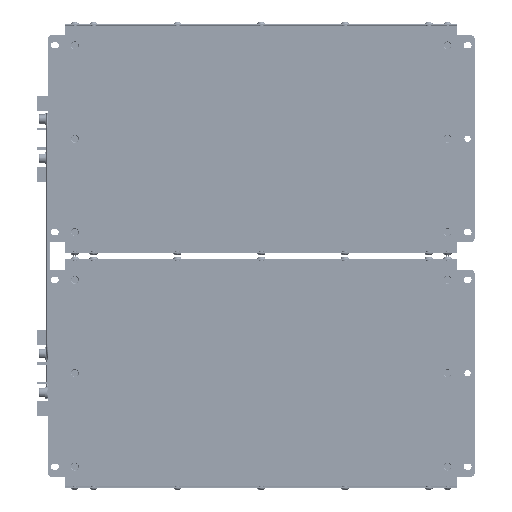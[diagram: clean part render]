
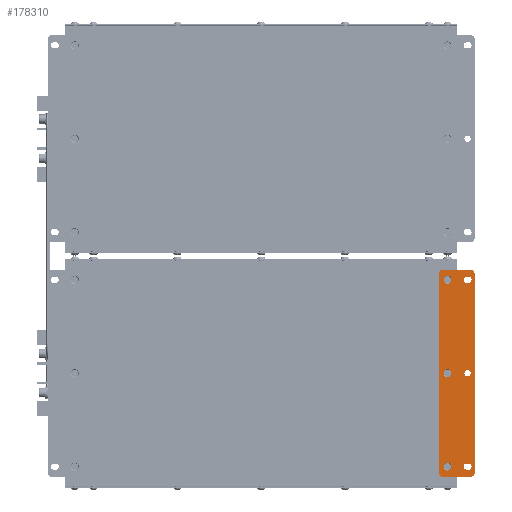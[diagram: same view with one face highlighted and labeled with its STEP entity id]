
A CAD part, front view. The second image highlights one B-rep face of the part: STEP entity #178310.
In plain terms, the highlighted planar face has unit normal (0, -1, 0).
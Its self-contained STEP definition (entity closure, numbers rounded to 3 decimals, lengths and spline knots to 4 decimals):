
#7023=FACE_BOUND('',#54041,.T.);
#7024=FACE_BOUND('',#54042,.T.);
#7025=FACE_BOUND('',#54043,.T.);
#7026=FACE_BOUND('',#54044,.T.);
#7027=FACE_BOUND('',#54045,.T.);
#7028=FACE_BOUND('',#54046,.T.);
#8790=PLANE('',#187692);
#14268=LINE('',#253524,#28526);
#14269=LINE('',#253528,#28527);
#14270=LINE('',#253532,#28528);
#14271=LINE('',#253536,#28529);
#14272=LINE('',#253542,#28530);
#14273=LINE('',#253546,#28531);
#14274=LINE('',#253550,#28532);
#14275=LINE('',#253554,#28533);
#28526=VECTOR('',#205247,0.3937);
#28527=VECTOR('',#205250,0.3937);
#28528=VECTOR('',#205253,0.3937);
#28529=VECTOR('',#205256,0.3937);
#28530=VECTOR('',#205261,0.3937);
#28531=VECTOR('',#205264,0.3937);
#28532=VECTOR('',#205267,0.3937);
#28533=VECTOR('',#205270,0.3937);
#44940=FACE_OUTER_BOUND('',#54040,.T.);
#54040=EDGE_LOOP('',(#120073,#120074,#120075,#120076,#120077,#120078,#120079,
#120080));
#54041=EDGE_LOOP('',(#120081));
#54042=EDGE_LOOP('',(#120082,#120083,#120084,#120085));
#54043=EDGE_LOOP('',(#120086,#120087,#120088,#120089));
#54044=EDGE_LOOP('',(#120090));
#54045=EDGE_LOOP('',(#120091));
#54046=EDGE_LOOP('',(#120092));
#64333=CIRCLE('',#187691,0.1673);
#64334=CIRCLE('',#187693,0.1575);
#64335=CIRCLE('',#187694,0.1575);
#64336=CIRCLE('',#187695,0.1575);
#64337=CIRCLE('',#187696,0.1575);
#64338=CIRCLE('',#187697,0.1673);
#64339=CIRCLE('',#187698,0.1299);
#64340=CIRCLE('',#187699,0.1299);
#64341=CIRCLE('',#187700,0.1299);
#64342=CIRCLE('',#187701,0.1299);
#64343=CIRCLE('',#187702,0.1299);
#64344=CIRCLE('',#187703,0.1673);
#72264=VERTEX_POINT('',#253518);
#72265=VERTEX_POINT('',#253522);
#72266=VERTEX_POINT('',#253523);
#72267=VERTEX_POINT('',#253525);
#72268=VERTEX_POINT('',#253527);
#72269=VERTEX_POINT('',#253529);
#72270=VERTEX_POINT('',#253531);
#72271=VERTEX_POINT('',#253533);
#72272=VERTEX_POINT('',#253535);
#72273=VERTEX_POINT('',#253538);
#72274=VERTEX_POINT('',#253540);
#72275=VERTEX_POINT('',#253541);
#72276=VERTEX_POINT('',#253543);
#72277=VERTEX_POINT('',#253545);
#72278=VERTEX_POINT('',#253548);
#72279=VERTEX_POINT('',#253549);
#72280=VERTEX_POINT('',#253551);
#72281=VERTEX_POINT('',#253553);
#72282=VERTEX_POINT('',#253556);
#72283=VERTEX_POINT('',#253558);
#91483=EDGE_CURVE('',#72264,#72264,#64333,.T.);
#91485=EDGE_CURVE('',#72265,#72266,#14268,.T.);
#91486=EDGE_CURVE('',#72266,#72267,#64334,.T.);
#91487=EDGE_CURVE('',#72267,#72268,#14269,.T.);
#91488=EDGE_CURVE('',#72268,#72269,#64335,.T.);
#91489=EDGE_CURVE('',#72269,#72270,#14270,.T.);
#91490=EDGE_CURVE('',#72270,#72271,#64336,.T.);
#91491=EDGE_CURVE('',#72271,#72272,#14271,.T.);
#91492=EDGE_CURVE('',#72272,#72265,#64337,.T.);
#91493=EDGE_CURVE('',#72273,#72273,#64338,.T.);
#91494=EDGE_CURVE('',#72274,#72275,#14272,.T.);
#91495=EDGE_CURVE('',#72275,#72276,#64339,.T.);
#91496=EDGE_CURVE('',#72276,#72277,#14273,.T.);
#91497=EDGE_CURVE('',#72277,#72274,#64340,.T.);
#91498=EDGE_CURVE('',#72278,#72279,#14274,.T.);
#91499=EDGE_CURVE('',#72279,#72280,#64341,.T.);
#91500=EDGE_CURVE('',#72280,#72281,#14275,.T.);
#91501=EDGE_CURVE('',#72281,#72278,#64342,.T.);
#91502=EDGE_CURVE('',#72282,#72282,#64343,.T.);
#91503=EDGE_CURVE('',#72283,#72283,#64344,.T.);
#120073=ORIENTED_EDGE('',*,*,#91485,.T.);
#120074=ORIENTED_EDGE('',*,*,#91486,.T.);
#120075=ORIENTED_EDGE('',*,*,#91487,.T.);
#120076=ORIENTED_EDGE('',*,*,#91488,.T.);
#120077=ORIENTED_EDGE('',*,*,#91489,.T.);
#120078=ORIENTED_EDGE('',*,*,#91490,.T.);
#120079=ORIENTED_EDGE('',*,*,#91491,.T.);
#120080=ORIENTED_EDGE('',*,*,#91492,.T.);
#120081=ORIENTED_EDGE('',*,*,#91493,.F.);
#120082=ORIENTED_EDGE('',*,*,#91494,.T.);
#120083=ORIENTED_EDGE('',*,*,#91495,.T.);
#120084=ORIENTED_EDGE('',*,*,#91496,.T.);
#120085=ORIENTED_EDGE('',*,*,#91497,.T.);
#120086=ORIENTED_EDGE('',*,*,#91498,.T.);
#120087=ORIENTED_EDGE('',*,*,#91499,.T.);
#120088=ORIENTED_EDGE('',*,*,#91500,.T.);
#120089=ORIENTED_EDGE('',*,*,#91501,.T.);
#120090=ORIENTED_EDGE('',*,*,#91502,.T.);
#120091=ORIENTED_EDGE('',*,*,#91503,.F.);
#120092=ORIENTED_EDGE('',*,*,#91483,.F.);
#178310=ADVANCED_FACE('',(#44940,#7023,#7024,#7025,#7026,#7027,#7028),#8790,
 .T.);
#187691=AXIS2_PLACEMENT_3D('',#253519,#205242,#205243);
#187692=AXIS2_PLACEMENT_3D('',#253521,#205245,#205246);
#187693=AXIS2_PLACEMENT_3D('',#253526,#205248,#205249);
#187694=AXIS2_PLACEMENT_3D('',#253530,#205251,#205252);
#187695=AXIS2_PLACEMENT_3D('',#253534,#205254,#205255);
#187696=AXIS2_PLACEMENT_3D('',#253537,#205257,#205258);
#187697=AXIS2_PLACEMENT_3D('',#253539,#205259,#205260);
#187698=AXIS2_PLACEMENT_3D('',#253544,#205262,#205263);
#187699=AXIS2_PLACEMENT_3D('',#253547,#205265,#205266);
#187700=AXIS2_PLACEMENT_3D('',#253552,#205268,#205269);
#187701=AXIS2_PLACEMENT_3D('',#253555,#205271,#205272);
#187702=AXIS2_PLACEMENT_3D('',#253557,#205273,#205274);
#187703=AXIS2_PLACEMENT_3D('',#253559,#205275,#205276);
#205242=DIRECTION('center_axis',(0.,-1.,0.));
#205243=DIRECTION('ref_axis',(0.,0.,
1.));
#205245=DIRECTION('center_axis',(0.,-1.,0.));
#205246=DIRECTION('ref_axis',(1.,0.,0.));
#205247=DIRECTION('',(1.,0.,0.));
#205248=DIRECTION('center_axis',(0.,-1.,0.));
#205249=DIRECTION('ref_axis',(0.,0.,
-1.));
#205250=DIRECTION('',(0.,0.,1.));
#205251=DIRECTION('center_axis',(0.,-1.,0.));
#205252=DIRECTION('ref_axis',(1.,0.,0.));
#205253=DIRECTION('',(-1.,0.,0.));
#205254=DIRECTION('center_axis',(0.,-1.,0.));
#205255=DIRECTION('ref_axis',(0.,0.,
1.));
#205256=DIRECTION('',(0.,0.,-1.));
#205257=DIRECTION('center_axis',(0.,-1.,0.));
#205258=DIRECTION('ref_axis',(-1.,0.,0.));
#205259=DIRECTION('center_axis',(0.,-1.,0.));
#205260=DIRECTION('ref_axis',(0.,0.,
1.));
#205261=DIRECTION('',(-1.,0.,0.));
#205262=DIRECTION('center_axis',(0.,1.,0.));
#205263=DIRECTION('ref_axis',(0.,0.,
-1.));
#205264=DIRECTION('',(1.,0.,0.));
#205265=DIRECTION('center_axis',(0.,1.,0.));
#205266=DIRECTION('ref_axis',(0.,0.,
1.));
#205267=DIRECTION('',(1.,0.,0.));
#205268=DIRECTION('center_axis',(0.,1.,0.));
#205269=DIRECTION('ref_axis',(0.,0.,
1.));
#205270=DIRECTION('',(-1.,0.,0.));
#205271=DIRECTION('center_axis',(0.,1.,0.));
#205272=DIRECTION('ref_axis',(0.,0.,
-1.));
#205273=DIRECTION('center_axis',(0.,1.,0.));
#205274=DIRECTION('ref_axis',(0.,0.,
1.));
#205275=DIRECTION('center_axis',(0.,-1.,0.));
#205276=DIRECTION('ref_axis',(0.,0.,
1.));
#253518=CARTESIAN_POINT('',(6.5134,-4.0409,4.7002));
#253519=CARTESIAN_POINT('Origin',(6.5134,-4.0409,4.8675));
#253521=CARTESIAN_POINT('Origin',(6.9071,-4.0409,0.9305));
#253522=CARTESIAN_POINT('',(6.3166,-4.0409,-3.4395));
#253523=CARTESIAN_POINT('',(7.4977,-4.0409,-3.4395));
#253524=CARTESIAN_POINT('',(6.3166,-4.0409,-3.4395));
#253525=CARTESIAN_POINT('',(7.6552,-4.0409,-3.2821));
#253526=CARTESIAN_POINT('Origin',(7.4977,-4.0409,-3.2821));
#253527=CARTESIAN_POINT('',(7.6552,-4.0409,5.1431));
#253528=CARTESIAN_POINT('',(7.6552,-4.0409,-3.2821));
#253529=CARTESIAN_POINT('',(7.4977,-4.0409,5.3006));
#253530=CARTESIAN_POINT('Origin',(7.4977,-4.0409,5.1431));
#253531=CARTESIAN_POINT('',(6.3166,-4.0409,5.3006));
#253532=CARTESIAN_POINT('',(7.4977,-4.0409,5.3006));
#253533=CARTESIAN_POINT('',(6.1591,-4.0409,5.1431));
#253534=CARTESIAN_POINT('Origin',(6.3166,-4.0409,5.1431));
#253535=CARTESIAN_POINT('',(6.1591,-4.0409,-3.2821));
#253536=CARTESIAN_POINT('',(6.1591,-4.0409,5.1431));
#253537=CARTESIAN_POINT('Origin',(6.3166,-4.0409,-3.2821));
#253538=CARTESIAN_POINT('',(6.5134,-4.0409,0.7632));
#253539=CARTESIAN_POINT('Origin',(6.5134,-4.0409,0.9305));
#253540=CARTESIAN_POINT('',(7.3993,-4.0409,4.7376));
#253541=CARTESIAN_POINT('',(7.3205,-4.0409,4.7376));
#253542=CARTESIAN_POINT('',(7.3993,-4.0409,4.7376));
#253543=CARTESIAN_POINT('',(7.3205,-4.0409,4.9975));
#253544=CARTESIAN_POINT('Origin',(7.3205,-4.0409,4.8675));
#253545=CARTESIAN_POINT('',(7.3993,-4.0409,4.9975));
#253546=CARTESIAN_POINT('',(7.3205,-4.0409,4.9975));
#253547=CARTESIAN_POINT('Origin',(7.3993,-4.0409,4.8675));
#253548=CARTESIAN_POINT('',(7.3205,-4.0409,-2.8766));
#253549=CARTESIAN_POINT('',(7.3993,-4.0409,-2.8766));
#253550=CARTESIAN_POINT('',(7.3205,-4.0409,-2.8766));
#253551=CARTESIAN_POINT('',(7.3993,-4.0409,-3.1364));
#253552=CARTESIAN_POINT('Origin',(7.3993,-4.0409,-3.0065));
#253553=CARTESIAN_POINT('',(7.3205,-4.0409,-3.1364));
#253554=CARTESIAN_POINT('',(7.3993,-4.0409,-3.1364));
#253555=CARTESIAN_POINT('Origin',(7.3205,-4.0409,-3.0065));
#253556=CARTESIAN_POINT('',(7.3599,-4.0409,0.8006));
#253557=CARTESIAN_POINT('Origin',(7.3599,-4.0409,0.9305));
#253558=CARTESIAN_POINT('',(6.5134,-4.0409,-3.1738));
#253559=CARTESIAN_POINT('Origin',(6.5134,-4.0409,-3.0065));
